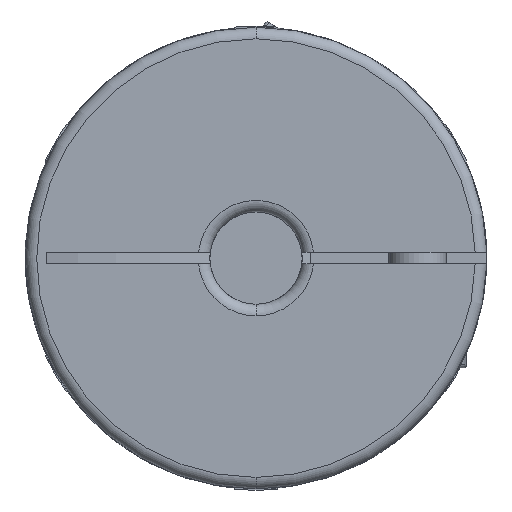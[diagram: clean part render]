
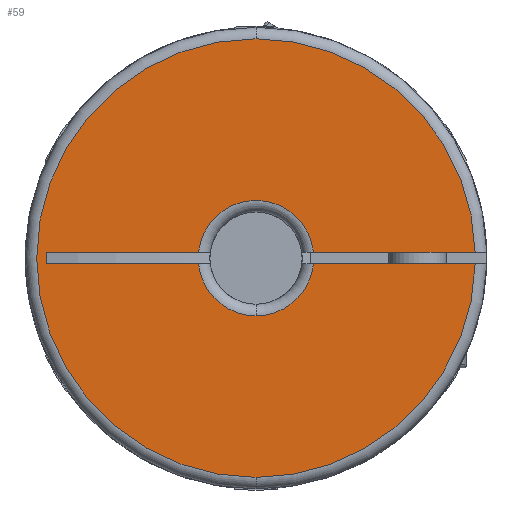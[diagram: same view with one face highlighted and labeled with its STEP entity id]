
A CAD part, front view. The second image highlights one B-rep face of the part: STEP entity #59.
In plain terms, the highlighted planar face has unit normal (0, -1, 0).
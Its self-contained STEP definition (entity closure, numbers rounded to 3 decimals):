
#59 = ADVANCED_FACE ( 'NONE', ( #6504 ), #4984, .F. ) ;
#129 = EDGE_CURVE ( 'NONE', #4700, #2259, #3292, .T. ) ;
#244 = DIRECTION ( 'NONE',  ( 0., 0., 1. ) ) ;
#295 = DIRECTION ( 'NONE',  ( 1., 0., 0. ) ) ;
#313 = LINE ( 'NONE', #6053, #1951 ) ;
#314 = CARTESIAN_POINT ( 'NONE',  ( 0., 0., 0. ) ) ;
#328 = DIRECTION ( 'NONE',  ( 0., -1., 0. ) ) ;
#411 = CARTESIAN_POINT ( 'NONE',  ( -4.975, 0., 0.5 ) ) ;
#417 = DIRECTION ( 'NONE',  ( 0., -1., 0. ) ) ;
#426 = EDGE_CURVE ( 'NONE', #5634, #2016, #5008, .T. ) ;
#443 = ORIENTED_EDGE ( 'NONE', *, *, #1493, .F. ) ;
#576 = VERTEX_POINT ( 'NONE', #1792 ) ;
#868 = AXIS2_PLACEMENT_3D ( 'NONE', #3584, #5674, #6261 ) ;
#906 = EDGE_CURVE ( 'NONE', #576, #1611, #949, .T. ) ;
#937 = CARTESIAN_POINT ( 'NONE',  ( 0., 0., 19. ) ) ;
#947 = VERTEX_POINT ( 'NONE', #4060 ) ;
#949 = CIRCLE ( 'NONE', #5340, 19. ) ;
#1173 = CIRCLE ( 'NONE', #4898, 5. ) ;
#1229 = ORIENTED_EDGE ( 'NONE', *, *, #5143, .F. ) ;
#1421 = DIRECTION ( 'NONE',  ( 0., 1., 0. ) ) ;
#1458 = VERTEX_POINT ( 'NONE', #4959 ) ;
#1493 = EDGE_CURVE ( 'NONE', #2259, #1458, #1173, .T. ) ;
#1520 = EDGE_CURVE ( 'NONE', #1611, #1602, #2930, .T. ) ;
#1602 = VERTEX_POINT ( 'NONE', #5198 ) ;
#1611 = VERTEX_POINT ( 'NONE', #937 ) ;
#1746 = DIRECTION ( 'NONE',  ( 1., 0., 0. ) ) ;
#1758 = CARTESIAN_POINT ( 'NONE',  ( -4.975, 0., -0.5 ) ) ;
#1792 = CARTESIAN_POINT ( 'NONE',  ( 18.993, 0., 0.5 ) ) ;
#1812 = CARTESIAN_POINT ( 'NONE',  ( 4.975, 0., 0.5 ) ) ;
#1852 = EDGE_LOOP ( 'NONE', ( #4448, #443, #3243, #1229, #6757, #4544, #5281, #6457, #5611, #4121, #2422 ) ) ;
#1899 = CARTESIAN_POINT ( 'NONE',  ( -5., 0., 0. ) ) ;
#1947 = AXIS2_PLACEMENT_3D ( 'NONE', #314, #2426, #4001 ) ;
#1951 = VECTOR ( 'NONE', #244, 1000. ) ;
#1963 = DIRECTION ( 'NONE',  ( 0., 0., -1. ) ) ;
#1981 = AXIS2_PLACEMENT_3D ( 'NONE', #1899, #1421, #3522 ) ;
#1984 = CARTESIAN_POINT ( 'NONE',  ( -18.129, 0., 0.5 ) ) ;
#2016 = VERTEX_POINT ( 'NONE', #411 ) ;
#2093 = VECTOR ( 'NONE', #295, 1000. ) ;
#2259 = VERTEX_POINT ( 'NONE', #3885 ) ;
#2329 = LINE ( 'NONE', #5895, #5246 ) ;
#2351 = AXIS2_PLACEMENT_3D ( 'NONE', #2931, #6126, #5578 ) ;
#2396 = CARTESIAN_POINT ( 'NONE',  ( -5., 0., 0.5 ) ) ;
#2422 = ORIENTED_EDGE ( 'NONE', *, *, #2666, .T. ) ;
#2426 = DIRECTION ( 'NONE',  ( 0., -1., 0. ) ) ;
#2528 = DIRECTION ( 'NONE',  ( 0., 0., -1. ) ) ;
#2572 = CIRCLE ( 'NONE', #3993, 5. ) ;
#2666 = EDGE_CURVE ( 'NONE', #1602, #947, #4745, .T. ) ;
#2732 = VECTOR ( 'NONE', #6513, 1000. ) ;
#2776 = CARTESIAN_POINT ( 'NONE',  ( -5., 0., -0.5 ) ) ;
#2881 = VECTOR ( 'NONE', #6647, 1000. ) ;
#2930 = CIRCLE ( 'NONE', #1947, 19. ) ;
#2931 = CARTESIAN_POINT ( 'NONE',  ( 0., 0., 0. ) ) ;
#2955 = CARTESIAN_POINT ( 'NONE',  ( -5., 0., 0.5 ) ) ;
#3243 = ORIENTED_EDGE ( 'NONE', *, *, #129, .F. ) ;
#3292 = CIRCLE ( 'NONE', #868, 5. ) ;
#3312 = CARTESIAN_POINT ( 'NONE',  ( -18.129, 0., -0.5 ) ) ;
#3522 = DIRECTION ( 'NONE',  ( 0., 0., 1. ) ) ;
#3584 = CARTESIAN_POINT ( 'NONE',  ( 0., 0., 0. ) ) ;
#3587 = EDGE_CURVE ( 'NONE', #3614, #576, #3976, .T. ) ;
#3614 = VERTEX_POINT ( 'NONE', #1812 ) ;
#3885 = CARTESIAN_POINT ( 'NONE',  ( 0., 0., -5. ) ) ;
#3969 = DIRECTION ( 'NONE',  ( 0., -1., 0. ) ) ;
#3976 = LINE ( 'NONE', #2396, #2881 ) ;
#3993 = AXIS2_PLACEMENT_3D ( 'NONE', #5127, #417, #2528 ) ;
#4001 = DIRECTION ( 'NONE',  ( 0., 0., -1. ) ) ;
#4060 = CARTESIAN_POINT ( 'NONE',  ( 18.993, 0., -0.5 ) ) ;
#4086 = EDGE_CURVE ( 'NONE', #6098, #5634, #313, .T. ) ;
#4121 = ORIENTED_EDGE ( 'NONE', *, *, #1520, .T. ) ;
#4414 = LINE ( 'NONE', #2776, #2732 ) ;
#4448 = ORIENTED_EDGE ( 'NONE', *, *, #5121, .F. ) ;
#4477 = CARTESIAN_POINT ( 'NONE',  ( 0., 0., 0. ) ) ;
#4544 = ORIENTED_EDGE ( 'NONE', *, *, #426, .T. ) ;
#4700 = VERTEX_POINT ( 'NONE', #1758 ) ;
#4745 = CIRCLE ( 'NONE', #2351, 19. ) ;
#4898 = AXIS2_PLACEMENT_3D ( 'NONE', #4477, #3969, #5617 ) ;
#4959 = CARTESIAN_POINT ( 'NONE',  ( 4.975, 0., -0.5 ) ) ;
#4984 = PLANE ( 'NONE',  #1981 ) ;
#5008 = LINE ( 'NONE', #2955, #2093 ) ;
#5121 = EDGE_CURVE ( 'NONE', #1458, #947, #2329, .T. ) ;
#5127 = CARTESIAN_POINT ( 'NONE',  ( 0., 0., 0. ) ) ;
#5143 = EDGE_CURVE ( 'NONE', #6098, #4700, #4414, .T. ) ;
#5198 = CARTESIAN_POINT ( 'NONE',  ( 0., 0., -19. ) ) ;
#5246 = VECTOR ( 'NONE', #1746, 1000. ) ;
#5281 = ORIENTED_EDGE ( 'NONE', *, *, #5640, .F. ) ;
#5340 = AXIS2_PLACEMENT_3D ( 'NONE', #6658, #328, #1963 ) ;
#5578 = DIRECTION ( 'NONE',  ( 0., 0., -1. ) ) ;
#5611 = ORIENTED_EDGE ( 'NONE', *, *, #906, .T. ) ;
#5617 = DIRECTION ( 'NONE',  ( 0., 0., -1. ) ) ;
#5634 = VERTEX_POINT ( 'NONE', #1984 ) ;
#5640 = EDGE_CURVE ( 'NONE', #3614, #2016, #2572, .T. ) ;
#5674 = DIRECTION ( 'NONE',  ( 0., -1., 0. ) ) ;
#5895 = CARTESIAN_POINT ( 'NONE',  ( -5., 0., -0.5 ) ) ;
#6053 = CARTESIAN_POINT ( 'NONE',  ( -18.129, 0., -0.5 ) ) ;
#6098 = VERTEX_POINT ( 'NONE', #3312 ) ;
#6126 = DIRECTION ( 'NONE',  ( 0., -1., 0. ) ) ;
#6261 = DIRECTION ( 'NONE',  ( 0., 0., -1. ) ) ;
#6457 = ORIENTED_EDGE ( 'NONE', *, *, #3587, .T. ) ;
#6504 = FACE_OUTER_BOUND ( 'NONE', #1852, .T. ) ;
#6513 = DIRECTION ( 'NONE',  ( 1., 0., 0. ) ) ;
#6647 = DIRECTION ( 'NONE',  ( 1., 0., 0. ) ) ;
#6658 = CARTESIAN_POINT ( 'NONE',  ( 0., 0., 0. ) ) ;
#6757 = ORIENTED_EDGE ( 'NONE', *, *, #4086, .T. ) ;
